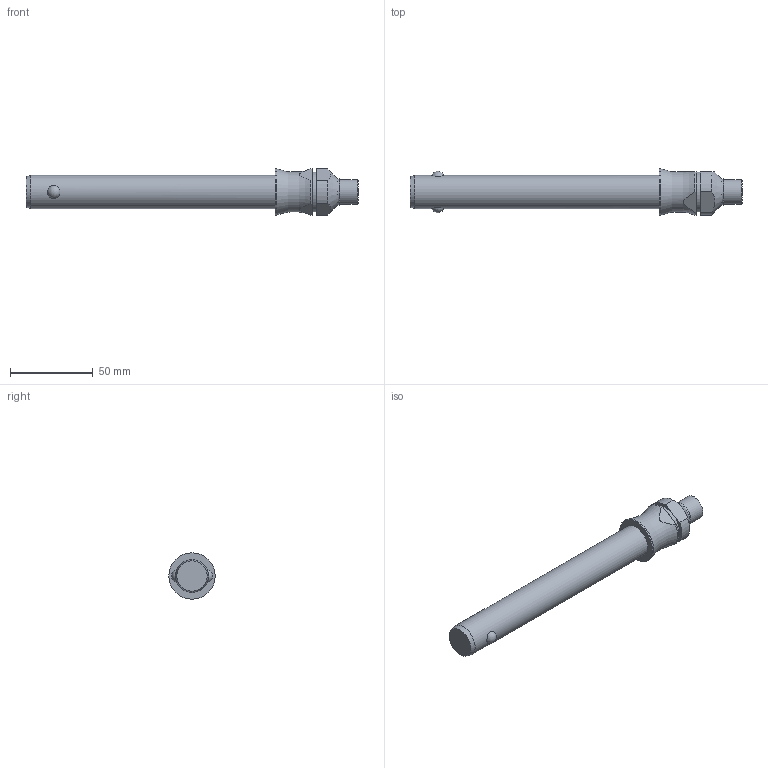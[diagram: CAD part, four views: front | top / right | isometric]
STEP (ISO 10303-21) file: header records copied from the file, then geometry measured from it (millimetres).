
FILE_DESCRIPTION( ( 'STEP AP203' ), '1' );
FILE_NAME( 'C:/Temp/Ganter_Step_05_03_2020/data/3_1/gn113_3/Stainless Steel-Ball lock pin GN 113.3-20-130 (deactivated).stp', '2020-03-12T08:19:06', ( 'License CC BY-ND 4.0' ), ( 'CADENAS' ), ' ', 'PARTsolutions', ' ' );
FILE_SCHEMA( ( 'CONFIG_CONTROL_DESIGN' ) );
Length unit declared in the file: millimetre
Products named in the file (1): _Stainless Steel-Ball lock pin GN 113.3-20-130 (deactivated)
Bounding box: 200.6 x 28 x 28 mm (x, y, z)
Volume: 68082 mm3; surface area: 14220.3 mm2
Topology: 1 solids, 1 shells, 29 faces, 62 edges, 40 vertices
Faces by surface type: plane 11, cylinder 11, cone 4, sphere 2, torus 1
Full cylindrical faces by diameter (mm): 15 x1, 16 x1, 20 x1, 24 x1, 28 x1
Entity records: 1010 total; most frequent: CARTESIAN_POINT 380, DIRECTION 126, ORIENTED_EDGE 100, AXIS2_PLACEMENT_3D 54, EDGE_CURVE 50, EDGE_LOOP 44, VERTEX_POINT 38, FACE_OUTER_BOUND 35
